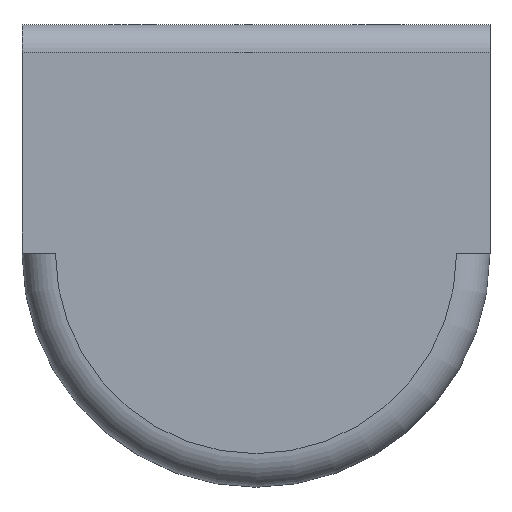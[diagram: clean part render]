
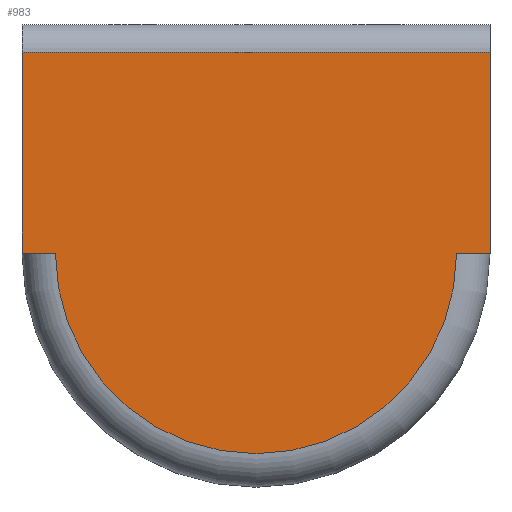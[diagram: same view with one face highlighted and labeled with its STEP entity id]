
A CAD part, top view. The second image highlights one B-rep face of the part: STEP entity #983.
In plain terms, the highlighted planar face has unit normal (0, 0, 1).
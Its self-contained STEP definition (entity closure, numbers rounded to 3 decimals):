
#90 = PLANE('',#91);
#91 = AXIS2_PLACEMENT_3D('',#92,#93,#94);
#92 = CARTESIAN_POINT('',(21.,-4.267,-3.926));
#93 = DIRECTION('',(1.,0.,0.));
#94 = DIRECTION('',(0.,1.,0.));
#144 = PLANE('',#145);
#145 = AXIS2_PLACEMENT_3D('',#146,#147,#148);
#146 = CARTESIAN_POINT('',(-21.,-4.267,-3.926));
#147 = DIRECTION('',(1.,0.,0.));
#148 = DIRECTION('',(0.,1.,0.));
#394 = VERTEX_POINT('',#395);
#395 = CARTESIAN_POINT('',(-21.,-0.5,2.));
#410 = CYLINDRICAL_SURFACE('',#411,2.5);
#411 = AXIS2_PLACEMENT_3D('',#412,#413,#414);
#412 = CARTESIAN_POINT('',(-21.,-0.5,-0.5));
#413 = DIRECTION('',(-1.,-0.,0.));
#414 = DIRECTION('',(0.,1.,0.));
#422 = EDGE_CURVE('',#423,#394,#425,.T.);
#423 = VERTEX_POINT('',#424);
#424 = CARTESIAN_POINT('',(-21.,-18.5,2.));
#425 = SURFACE_CURVE('',#426,(#430,#437),.PCURVE_S1.);
#426 = LINE('',#427,#428);
#427 = CARTESIAN_POINT('',(-21.,-18.5,2.));
#428 = VECTOR('',#429,1.);
#429 = DIRECTION('',(0.,1.,0.));
#430 = PCURVE('',#144,#431);
#431 = DEFINITIONAL_REPRESENTATION('',(#432),#436);
#432 = LINE('',#433,#434);
#433 = CARTESIAN_POINT('',(-14.233,5.926));
#434 = VECTOR('',#435,1.);
#435 = DIRECTION('',(1.,0.));
#436 = ( GEOMETRIC_REPRESENTATION_CONTEXT(2) 
PARAMETRIC_REPRESENTATION_CONTEXT() REPRESENTATION_CONTEXT('2D SPACE',''
  ) );
#437 = PCURVE('',#438,#443);
#438 = PLANE('',#439);
#439 = AXIS2_PLACEMENT_3D('',#440,#441,#442);
#440 = CARTESIAN_POINT('',(-21.,-18.5,2.));
#441 = DIRECTION('',(0.,0.,1.));
#442 = DIRECTION('',(0.,1.,0.));
#443 = DEFINITIONAL_REPRESENTATION('',(#444),#448);
#444 = LINE('',#445,#446);
#445 = CARTESIAN_POINT('',(0.,0.));
#446 = VECTOR('',#447,1.);
#447 = DIRECTION('',(1.,0.));
#448 = ( GEOMETRIC_REPRESENTATION_CONTEXT(2) 
PARAMETRIC_REPRESENTATION_CONTEXT() REPRESENTATION_CONTEXT('2D SPACE',''
  ) );
#466 = PLANE('',#467);
#467 = AXIS2_PLACEMENT_3D('',#468,#469,#470);
#468 = CARTESIAN_POINT('',(-21.,-18.5,0.));
#469 = DIRECTION('',(0.,-1.,0.));
#470 = DIRECTION('',(0.,0.,1.));
#612 = VERTEX_POINT('',#613);
#613 = CARTESIAN_POINT('',(21.,-0.5,2.));
#635 = EDGE_CURVE('',#636,#612,#638,.T.);
#636 = VERTEX_POINT('',#637);
#637 = CARTESIAN_POINT('',(21.,-18.5,2.));
#638 = SURFACE_CURVE('',#639,(#643,#650),.PCURVE_S1.);
#639 = LINE('',#640,#641);
#640 = CARTESIAN_POINT('',(21.,-18.5,2.));
#641 = VECTOR('',#642,1.);
#642 = DIRECTION('',(0.,1.,0.));
#643 = PCURVE('',#90,#644);
#644 = DEFINITIONAL_REPRESENTATION('',(#645),#649);
#645 = LINE('',#646,#647);
#646 = CARTESIAN_POINT('',(-14.233,5.926));
#647 = VECTOR('',#648,1.);
#648 = DIRECTION('',(1.,0.));
#649 = ( GEOMETRIC_REPRESENTATION_CONTEXT(2) 
PARAMETRIC_REPRESENTATION_CONTEXT() REPRESENTATION_CONTEXT('2D SPACE',''
  ) );
#650 = PCURVE('',#438,#651);
#651 = DEFINITIONAL_REPRESENTATION('',(#652),#656);
#652 = LINE('',#653,#654);
#653 = CARTESIAN_POINT('',(0.,-42.));
#654 = VECTOR('',#655,1.);
#655 = DIRECTION('',(1.,0.));
#656 = ( GEOMETRIC_REPRESENTATION_CONTEXT(2) 
PARAMETRIC_REPRESENTATION_CONTEXT() REPRESENTATION_CONTEXT('2D SPACE',''
  ) );
#674 = PLANE('',#675);
#675 = AXIS2_PLACEMENT_3D('',#676,#677,#678);
#676 = CARTESIAN_POINT('',(-21.,-18.5,0.));
#677 = DIRECTION('',(0.,-1.,0.));
#678 = DIRECTION('',(0.,0.,1.));
#962 = EDGE_CURVE('',#394,#612,#963,.T.);
#963 = SURFACE_CURVE('',#964,(#968,#975),.PCURVE_S1.);
#964 = LINE('',#965,#966);
#965 = CARTESIAN_POINT('',(-21.,-0.5,2.));
#966 = VECTOR('',#967,1.);
#967 = DIRECTION('',(1.,0.,0.));
#968 = PCURVE('',#410,#969);
#969 = DEFINITIONAL_REPRESENTATION('',(#970),#974);
#970 = LINE('',#971,#972);
#971 = CARTESIAN_POINT('',(-1.571,0.));
#972 = VECTOR('',#973,1.);
#973 = DIRECTION('',(-0.,-1.));
#974 = ( GEOMETRIC_REPRESENTATION_CONTEXT(2) 
PARAMETRIC_REPRESENTATION_CONTEXT() REPRESENTATION_CONTEXT('2D SPACE',''
  ) );
#975 = PCURVE('',#438,#976);
#976 = DEFINITIONAL_REPRESENTATION('',(#977),#981);
#977 = LINE('',#978,#979);
#978 = CARTESIAN_POINT('',(18.,0.));
#979 = VECTOR('',#980,1.);
#980 = DIRECTION('',(0.,-1.));
#981 = ( GEOMETRIC_REPRESENTATION_CONTEXT(2) 
PARAMETRIC_REPRESENTATION_CONTEXT() REPRESENTATION_CONTEXT('2D SPACE',''
  ) );
#983 = ADVANCED_FACE('',(#984),#438,.T.);
#984 = FACE_BOUND('',#985,.T.);
#985 = EDGE_LOOP('',(#986,#1009,#1038,#1059,#1060,#1061));
#986 = ORIENTED_EDGE('',*,*,#987,.T.);
#987 = EDGE_CURVE('',#423,#988,#990,.T.);
#988 = VERTEX_POINT('',#989);
#989 = CARTESIAN_POINT('',(-18.,-18.5,2.));
#990 = SURFACE_CURVE('',#991,(#995,#1002),.PCURVE_S1.);
#991 = LINE('',#992,#993);
#992 = CARTESIAN_POINT('',(-21.,-18.5,2.));
#993 = VECTOR('',#994,1.);
#994 = DIRECTION('',(1.,0.,0.));
#995 = PCURVE('',#438,#996);
#996 = DEFINITIONAL_REPRESENTATION('',(#997),#1001);
#997 = LINE('',#998,#999);
#998 = CARTESIAN_POINT('',(0.,0.));
#999 = VECTOR('',#1000,1.);
#1000 = DIRECTION('',(0.,-1.));
#1001 = ( GEOMETRIC_REPRESENTATION_CONTEXT(2) 
PARAMETRIC_REPRESENTATION_CONTEXT() REPRESENTATION_CONTEXT('2D SPACE',''
  ) );
#1002 = PCURVE('',#466,#1003);
#1003 = DEFINITIONAL_REPRESENTATION('',(#1004),#1008);
#1004 = LINE('',#1005,#1006);
#1005 = CARTESIAN_POINT('',(2.,0.));
#1006 = VECTOR('',#1007,1.);
#1007 = DIRECTION('',(0.,-1.));
#1008 = ( GEOMETRIC_REPRESENTATION_CONTEXT(2) 
PARAMETRIC_REPRESENTATION_CONTEXT() REPRESENTATION_CONTEXT('2D SPACE',''
  ) );
#1009 = ORIENTED_EDGE('',*,*,#1010,.T.);
#1010 = EDGE_CURVE('',#988,#1011,#1013,.T.);
#1011 = VERTEX_POINT('',#1012);
#1012 = CARTESIAN_POINT('',(18.,-18.5,2.));
#1013 = SURFACE_CURVE('',#1014,(#1019,#1026),.PCURVE_S1.);
#1014 = CIRCLE('',#1015,18.);
#1015 = AXIS2_PLACEMENT_3D('',#1016,#1017,#1018);
#1016 = CARTESIAN_POINT('',(0.,-18.5,2.));
#1017 = DIRECTION('',(0.,0.,1.));
#1018 = DIRECTION('',(-1.,0.,0.));
#1019 = PCURVE('',#438,#1020);
#1020 = DEFINITIONAL_REPRESENTATION('',(#1021),#1025);
#1021 = CIRCLE('',#1022,18.);
#1022 = AXIS2_PLACEMENT_2D('',#1023,#1024);
#1023 = CARTESIAN_POINT('',(0.,-21.));
#1024 = DIRECTION('',(0.,1.));
#1025 = ( GEOMETRIC_REPRESENTATION_CONTEXT(2) 
PARAMETRIC_REPRESENTATION_CONTEXT() REPRESENTATION_CONTEXT('2D SPACE',''
  ) );
#1026 = PCURVE('',#1027,#1032);
#1027 = TOROIDAL_SURFACE('',#1028,18.,3.);
#1028 = AXIS2_PLACEMENT_3D('',#1029,#1030,#1031);
#1029 = CARTESIAN_POINT('',(0.,-18.5,-1.));
#1030 = DIRECTION('',(0.,0.,-1.));
#1031 = DIRECTION('',(-1.,0.,0.));
#1032 = DEFINITIONAL_REPRESENTATION('',(#1033),#1037);
#1033 = LINE('',#1034,#1035);
#1034 = CARTESIAN_POINT('',(-0.,4.712));
#1035 = VECTOR('',#1036,1.);
#1036 = DIRECTION('',(-1.,0.));
#1037 = ( GEOMETRIC_REPRESENTATION_CONTEXT(2) 
PARAMETRIC_REPRESENTATION_CONTEXT() REPRESENTATION_CONTEXT('2D SPACE',''
  ) );
#1038 = ORIENTED_EDGE('',*,*,#1039,.T.);
#1039 = EDGE_CURVE('',#1011,#636,#1040,.T.);
#1040 = SURFACE_CURVE('',#1041,(#1045,#1052),.PCURVE_S1.);
#1041 = LINE('',#1042,#1043);
#1042 = CARTESIAN_POINT('',(-21.,-18.5,2.));
#1043 = VECTOR('',#1044,1.);
#1044 = DIRECTION('',(1.,0.,0.));
#1045 = PCURVE('',#438,#1046);
#1046 = DEFINITIONAL_REPRESENTATION('',(#1047),#1051);
#1047 = LINE('',#1048,#1049);
#1048 = CARTESIAN_POINT('',(0.,0.));
#1049 = VECTOR('',#1050,1.);
#1050 = DIRECTION('',(0.,-1.));
#1051 = ( GEOMETRIC_REPRESENTATION_CONTEXT(2) 
PARAMETRIC_REPRESENTATION_CONTEXT() REPRESENTATION_CONTEXT('2D SPACE',''
  ) );
#1052 = PCURVE('',#674,#1053);
#1053 = DEFINITIONAL_REPRESENTATION('',(#1054),#1058);
#1054 = LINE('',#1055,#1056);
#1055 = CARTESIAN_POINT('',(2.,0.));
#1056 = VECTOR('',#1057,1.);
#1057 = DIRECTION('',(0.,-1.));
#1058 = ( GEOMETRIC_REPRESENTATION_CONTEXT(2) 
PARAMETRIC_REPRESENTATION_CONTEXT() REPRESENTATION_CONTEXT('2D SPACE',''
  ) );
#1059 = ORIENTED_EDGE('',*,*,#635,.T.);
#1060 = ORIENTED_EDGE('',*,*,#962,.F.);
#1061 = ORIENTED_EDGE('',*,*,#422,.F.);
